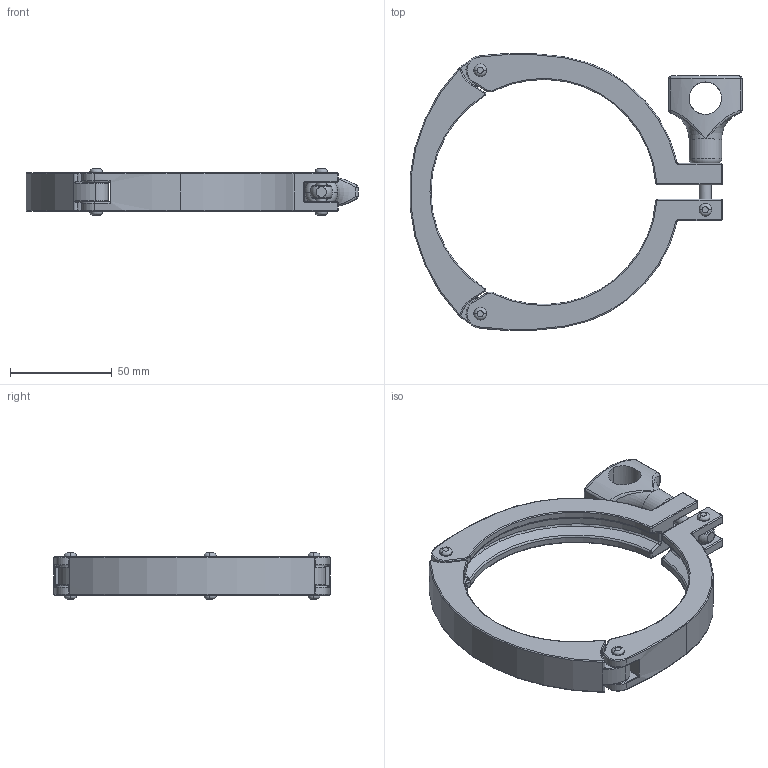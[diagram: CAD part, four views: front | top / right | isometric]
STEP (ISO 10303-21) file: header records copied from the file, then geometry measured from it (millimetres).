
FILE_DESCRIPTION (( 'STEP AP203' ), '1' );
FILE_NAME ('13MHHS4.0.STEP', '2022-06-09T05:42:32', ( '' ), ( '' ), 'SwSTEP 2.0', 'SolidWorks 2014', '' );
FILE_SCHEMA (( 'CONFIG_CONTROL_DESIGN' ));
Length unit declared in the file: millimetre
Products named in the file (7): 13MHHS-PARTS-6; 13MHHS-PART-4; Wing Nut 14; 13MHHS4.0-2; 13MHHS4.0; 13MHHS4.0-3; 13MHHS4.0-1
Assembly tree (8 placements, depth 2):
  13MHHS4.0
    13MHHS4.0-1
    13MHHS4.0-2
    13MHHS4.0-3
    13MHHS-PART-4
    13MHHS-PARTS-6  x3
    Wing Nut 14
Bounding box: 162.94 x 135.85 x 22.8 mm (x, y, z)
Volume: 90521.9 mm3; surface area: 39274.1 mm2
Topology: 8 solids, 8 shells, 577 faces, 1313 edges, 711 vertices
Faces by surface type: torus 188, cylinder 178, bspline 100, plane 62, sphere 42, cone 7
Entity records: 18775 total; most frequent: CARTESIAN_POINT 6327, DIRECTION 2642, ORIENTED_EDGE 2394, EDGE_CURVE 1197, AXIS2_PLACEMENT_3D 1192, CIRCLE 740, VERTEX_POINT 669, EDGE_LOOP 564
